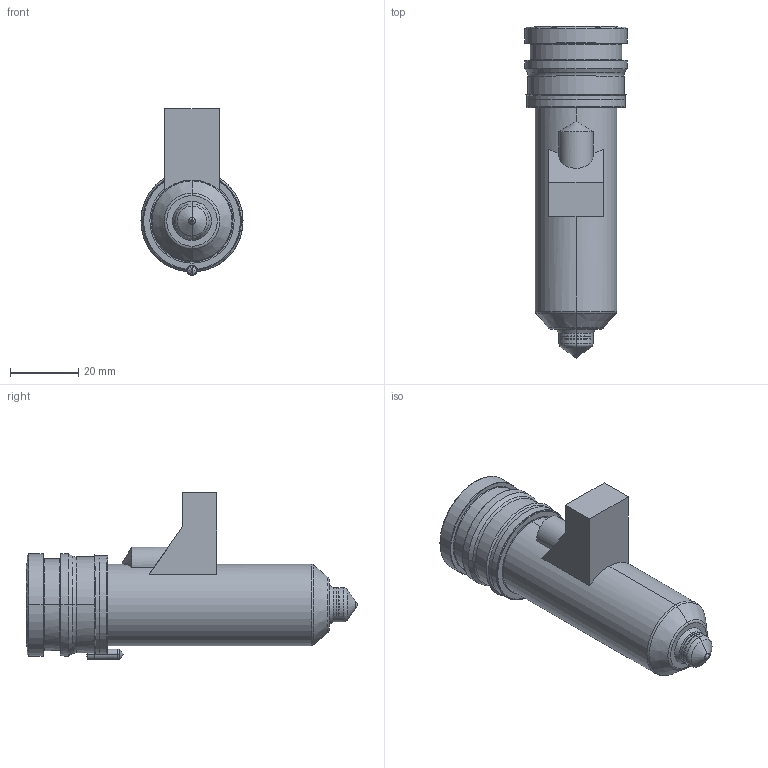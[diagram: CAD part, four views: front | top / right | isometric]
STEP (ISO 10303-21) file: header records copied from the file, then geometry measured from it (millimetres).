
FILE_DESCRIPTION((''),'2;1');
FILE_NAME('MPN-10-29-TX10-076-M','2026-02-05T12:50:47',('UPTIO'),('Thermoplay S.p.A.'),'CREO PARAMETRIC BY PTC INC, 2023494','CREO PARAMETRIC BY PTC INC, 2023494','');
FILE_SCHEMA(('CONFIG_CONTROL_DESIGN','SHAPE_APPEARANCE_LAYERS_GROUPS'));
Length unit declared in the file: millimetre
Products named in the file (1): MPN-10-29-TX10-076-M
Bounding box: 30 x 97.5 x 49 mm (x, y, z)
Volume: 31198.6 mm3; surface area: 31938.6 mm2
Topology: 3 solids, 5 shells, 541 faces, 1383 edges, 844 vertices
Faces by surface type: cylinder 177, plane 146, bspline 73, torus 67, cone 64, sphere 10, extrusion 4
Entity records: 28263 total; most frequent: CARTESIAN_POINT 12497, ORIENTED_EDGE 2748, DIRECTION 2568, EDGE_CURVE 1374, AXIS2_PLACEMENT_3D 1017, VERTEX_POINT 844, EDGE_LOOP 570, CIRCLE 552
